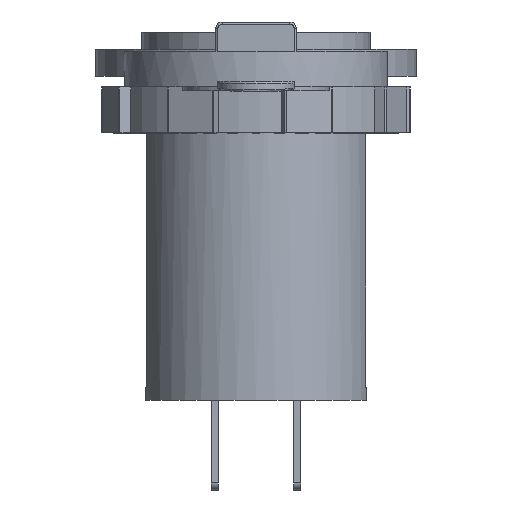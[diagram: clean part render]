
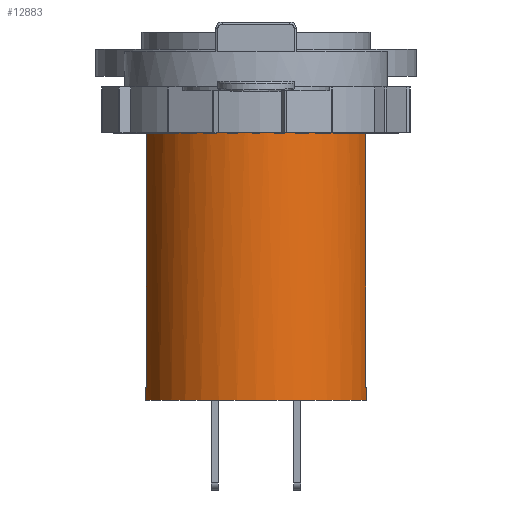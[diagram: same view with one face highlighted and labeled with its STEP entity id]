
A CAD part, front view. The second image highlights one B-rep face of the part: STEP entity #12883.
In plain terms, the highlighted cylindrical face has radius 13 mm (diameter 26 mm), a partial arc.
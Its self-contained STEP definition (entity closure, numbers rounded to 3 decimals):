
#700=FACE_OUTER_BOUND('',#1404,.T.);
#1404=EDGE_LOOP('',(#8916,#8917,#8918,#8919,#8920,#8921,#8922,#8923));
#2152=LINE('',#18688,#3657);
#2162=LINE('',#18710,#3667);
#2164=LINE('',#18716,#3669);
#2165=LINE('',#18720,#3670);
#3657=VECTOR('',#14898,10.);
#3667=VECTOR('',#14916,10.);
#3669=VECTOR('',#14922,10.);
#3670=VECTOR('',#14925,10.);
#5142=CIRCLE('',#13688,13.);
#5144=CIRCLE('',#13695,13.);
#5145=CIRCLE('',#13696,13.);
#5146=CIRCLE('',#13697,13.);
#5599=VERTEX_POINT('',#18680);
#5600=VERTEX_POINT('',#18681);
#5602=VERTEX_POINT('',#18687);
#5610=VERTEX_POINT('',#18709);
#5611=VERTEX_POINT('',#18713);
#5612=VERTEX_POINT('',#18715);
#5613=VERTEX_POINT('',#18717);
#5614=VERTEX_POINT('',#18719);
#6903=EDGE_CURVE('',#5599,#5600,#5142,.T.);
#6906=EDGE_CURVE('',#5600,#5602,#2152,.T.);
#6917=EDGE_CURVE('',#5610,#5599,#2162,.T.);
#6919=EDGE_CURVE('',#5602,#5611,#5144,.T.);
#6920=EDGE_CURVE('',#5611,#5612,#2164,.T.);
#6921=EDGE_CURVE('',#5612,#5613,#5145,.T.);
#6922=EDGE_CURVE('',#5613,#5614,#2165,.T.);
#6923=EDGE_CURVE('',#5610,#5614,#5146,.T.);
#8916=ORIENTED_EDGE('',*,*,#6917,.T.);
#8917=ORIENTED_EDGE('',*,*,#6903,.T.);
#8918=ORIENTED_EDGE('',*,*,#6906,.T.);
#8919=ORIENTED_EDGE('',*,*,#6919,.T.);
#8920=ORIENTED_EDGE('',*,*,#6920,.T.);
#8921=ORIENTED_EDGE('',*,*,#6921,.T.);
#8922=ORIENTED_EDGE('',*,*,#6922,.T.);
#8923=ORIENTED_EDGE('',*,*,#6923,.F.);
#12738=CYLINDRICAL_SURFACE('',#13694,13.);
#12883=ADVANCED_FACE('',(#700),#12738,.T.);
#13688=AXIS2_PLACEMENT_3D('',#18682,#14892,#14893);
#13694=AXIS2_PLACEMENT_3D('',#18712,#14918,#14919);
#13695=AXIS2_PLACEMENT_3D('',#18714,#14920,#14921);
#13696=AXIS2_PLACEMENT_3D('',#18718,#14923,#14924);
#13697=AXIS2_PLACEMENT_3D('',#18721,#14926,#14927);
#14892=DIRECTION('center_axis',(0.,0.,-1.));
#14893=DIRECTION('ref_axis',(1.,0.,0.));
#14898=DIRECTION('',(0.,0.,-1.));
#14916=DIRECTION('',(0.,0.,-1.));
#14918=DIRECTION('center_axis',(0.,0.,1.));
#14919=DIRECTION('ref_axis',(1.,0.,0.));
#14920=DIRECTION('center_axis',(0.,0.,1.));
#14921=DIRECTION('ref_axis',(1.,0.,0.));
#14922=DIRECTION('',(0.,0.,1.));
#14923=DIRECTION('center_axis',(0.,0.,-1.));
#14924=DIRECTION('ref_axis',(1.,0.,0.));
#14925=DIRECTION('',(0.,0.,1.));
#14926=DIRECTION('center_axis',(0.,0.,1.));
#14927=DIRECTION('ref_axis',(1.,0.,0.));
#18680=CARTESIAN_POINT('',(-12.5,-3.571,4.6));
#18681=CARTESIAN_POINT('',(-12.637,-3.05,4.6));
#18682=CARTESIAN_POINT('Origin',(0.,0.,4.6));
#18687=CARTESIAN_POINT('',(-12.637,-3.05,3.1));
#18688=CARTESIAN_POINT('',(-12.637,-3.05,0.));
#18709=CARTESIAN_POINT('',(-12.5,-3.571,40.));
#18710=CARTESIAN_POINT('',(-12.5,-3.571,0.));
#18712=CARTESIAN_POINT('Origin',(0.,0.,0.));
#18713=CARTESIAN_POINT('',(12.637,-3.05,3.1));
#18714=CARTESIAN_POINT('Origin',(0.,0.,3.1));
#18715=CARTESIAN_POINT('',(12.637,-3.05,4.6));
#18716=CARTESIAN_POINT('',(12.637,-3.05,0.));
#18717=CARTESIAN_POINT('',(12.5,-3.571,4.6));
#18718=CARTESIAN_POINT('Origin',(0.,0.,4.6));
#18719=CARTESIAN_POINT('',(12.5,-3.571,40.));
#18720=CARTESIAN_POINT('',(12.5,-3.571,0.));
#18721=CARTESIAN_POINT('Origin',(0.,0.,40.));
